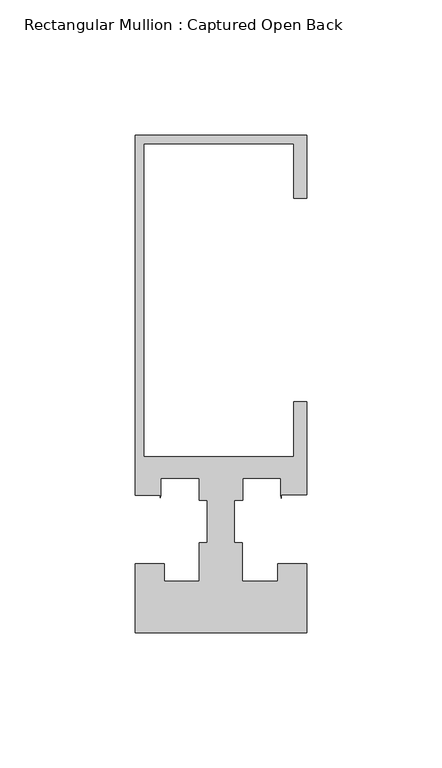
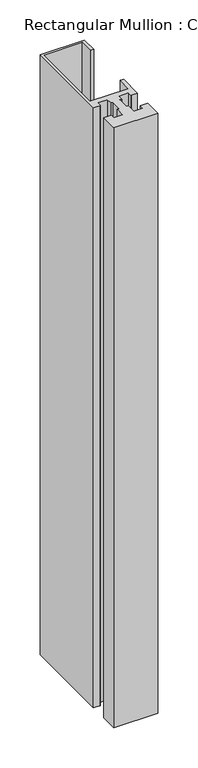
"""IFC4 building model written with IfcOpenShell, lengths in millimetres: member geometry, Rectangular Mullion : Captured Open Back."""

from ifc_helpers import new_model, si_unit, frame, origin, place, context, project, spatial, polyline, outline, extrude, source, transform, mapped, element, save


def rectangular_mullion_captured_open_back_cc8713bb(model_context):
    return source(origin(), model_context, "Body", "SweptSolid", [
        extrude(outline(polyline([(0.0, 114.3), (0.0, 90.8721193), (-4.7830665, 90.8721193), (-4.7830665, 111.1250145), (-60.3449493, 111.1250145), (-60.3449493, -4.7625735), (-4.7830665, -4.7625735), (-4.7830665, 15.5833982), (0.0, 15.5833982), (0.0, -18.933673), (-9.3791839, -18.933673), (-9.3791839, -20.0839351), (-9.5454538, -18.933673), (-9.5454538, -12.7), (-23.7289004, -12.7), (-23.7289004, -20.8793999), (-26.7817813, -20.8793999), (-26.7817813, -36.6491027), (-23.833119, -36.6491027), (-23.833119, -50.8001709), (-10.6860183, -50.8001709), (-10.6860183, -44.4245655), (0.0, -44.4245655), (0.0, -69.8502416), (-63.5, -69.8502416), (-63.5, -44.4247364), (-52.7976545, -44.4247364), (-52.7976545, -50.8001709), (-39.7081202, -50.8001709), (-39.7081202, -36.6491027), (-36.7345137, -36.6491027), (-36.7345137, -20.8793999), (-39.7081204, -20.8793999), (-39.7081204, -12.7), (-53.9955753, -12.7), (-53.9955753, -18.948961), (-54.1818814, -19.8905485), (-54.1818814, -18.9488461), (-63.5205663, -18.9488461), (-63.5205663, 114.3), (0.0, 114.3)])), frame((0.0, 0.0, -914.4), z_axis=(0.0, 0.0, 1.0), x_axis=(1.0, 0.0, 0.0)), (0.0, 0.0, 1.0), 914.4),
    ])


if __name__ == "__main__":
    model = new_model("IFC4")
    model_context = context("Model", 3, world=origin())
    ifc_project = project(units=[si_unit("LENGTHUNIT", "METRE", prefix="MILLI")], contexts=[model_context])
    site = spatial("IfcSite", under=ifc_project)
    building = spatial("IfcBuilding", under=site)
    placement = place(None, origin())
    rectangular_mullion_captured_open_back_shape = rectangular_mullion_captured_open_back_cc8713bb(model_context)
    element("IfcMember", 1, ObjectType="Rectangular Mullion : Captured Open Back", at=placement, inside=building, context=model_context, shape_type="MappedRepresentation", body=[
        mapped(rectangular_mullion_captured_open_back_shape, transform((0.0, 0.0, 0.0), x_axis=(1.0, 0.0, 0.0), y_axis=(0.0, 1.0, 0.0), z_axis=(0.0, 0.0, 1.0))),
    ])
    save(model, "model.ifc")
